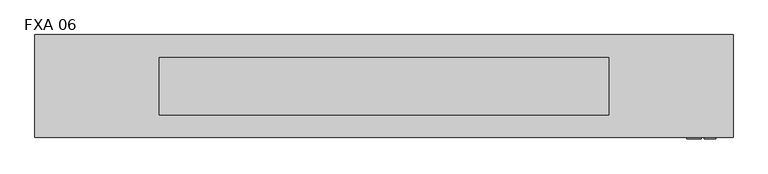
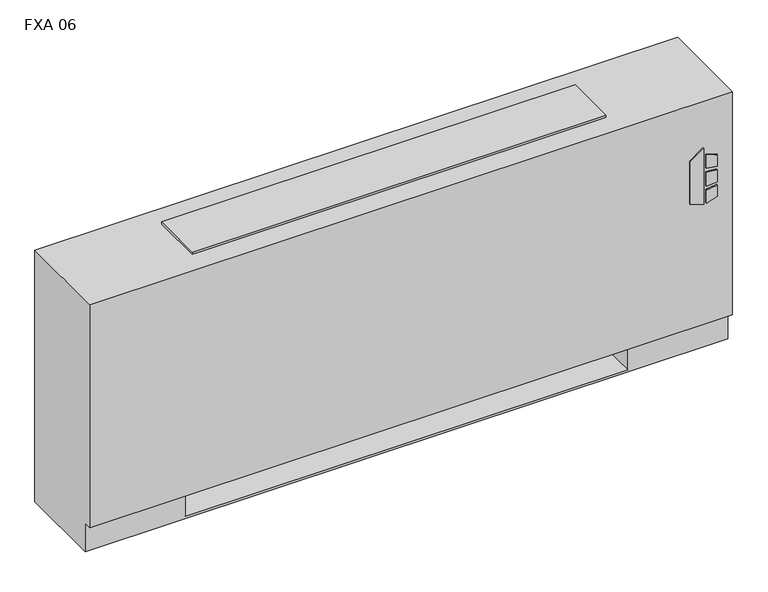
"""IFC4 building model written with IfcOpenShell, lengths in millimetres: proxy geometry, Vertical_Fan_Coil_Unit_-_FXA_-_IEC_-_4-Pipe_TS-FR_LH_2022 : FXA 06."""

from ifc_helpers import new_model, si_unit, point, frame, frame_2d, origin, place, context, project, spatial, polyline, circle_curve, trimmed, segment, composite_curve, outline, extrude, source, transform, mapped, element, save
from ifc_brep_helpers import plane_surface, revolved_surface, advanced_brep


def fxa_06_47459137(model_context):
    return source(origin(), model_context, "Body", "SolidModel", [
        extrude(outline(polyline([(391.6086829, 823.9868862), (381.6606126, 856.1602728), (523.831537, 856.1602728), (500.8095309, 823.9868862), (391.6086829, 823.9868862)])), frame((0.0, 12.7, 0.0), z_axis=(0.0, 1.0, 0.0), x_axis=(0.0, 0.0, 1.0)), (0.0, 0.0, 1.0), 3.175),
        extrude(outline(polyline([(470.6079683, 862.9186058), (467.4055757, 889.0), (496.6344168, 889.0), (504.6988318, 862.9186058), (470.6079683, 862.9186058)])), frame((0.0, 12.7, 0.0), z_axis=(0.0, 1.0, 0.0), x_axis=(0.0, 0.0, 1.0)), (0.0, 0.0, 1.0), 3.175),
        extrude(outline(polyline([(418.7444414, 889.0), (415.0789404, 862.9186058), (381.6606126, 862.9186058), (390.2948498, 889.0), (418.7444414, 889.0)])), frame((0.0, 12.7, 0.0), z_axis=(0.0, 1.0, 0.0), x_axis=(0.0, 0.0, 1.0)), (0.0, 0.0, 1.0), 3.175),
        extrude(outline(polyline([(458.0596028, 889.0), (460.3414292, 862.9186058), (424.4038806, 862.9186058), (427.1451456, 889.0), (458.0596028, 889.0)])), frame((0.0, 12.7, 0.0), z_axis=(0.0, 1.0, 0.0), x_axis=(0.0, 0.0, 1.0)), (0.0, 0.0, 1.0), 3.175),
        extrude(outline(polyline([(806.45, 223.266), (806.45, 81.534), (685.8, 81.534), (685.8, 223.266), (806.45, 223.266)])), frame((0.0, 0.0, 327.025), z_axis=(0.0, 0.0, 1.0), x_axis=(1.0, 0.0, 0.0)), (0.0, 0.0, 1.0), 260.35),
        extrude(outline(composite_curve([segment(trimmed(circle_curve(frame_2d((-444.5, 130.175)), 9.525), [point((-454.025, 130.175))], [point((-434.975, 130.175))], False, "CARTESIAN"), True, "CONTINUOUS"), segment(trimmed(circle_curve(frame_2d((-444.5, 130.175)), 9.525), [point((-434.975, 130.175))], [point((-454.025, 130.175))], False, "CARTESIAN"), True, "CONTINUOUS")], self_intersect=False)), frame((0.0, 0.0, 101.6), z_axis=(0.0, 0.0, 1.0), x_axis=(1.0, 0.0, 0.0)), (0.0, 0.0, 1.0), 25.4),
        extrude(outline(polyline([(-539.75, 63.5), (-539.75, 196.85), (-381.0, 196.85), (-381.0, 63.5), (-539.75, 63.5)])), frame((0.0, 0.0, 127.0), z_axis=(0.0, 0.0, 1.0), x_axis=(1.0, 0.0, 0.0)), (0.0, 0.0, 1.0), 50.8),
        extrude(outline(composite_curve([segment(trimmed(circle_curve(frame_2d((107.95, 457.2)), 7.9375), [point((107.95, 465.1375))], [point((107.95, 449.2625))], False, "CARTESIAN"), True, "CONTINUOUS"), segment(trimmed(circle_curve(frame_2d((107.95, 457.2)), 7.9375), [point((107.95, 449.2625))], [point((107.95, 465.1375))], False, "CARTESIAN"), True, "CONTINUOUS")], self_intersect=False)), frame((-431.8, 0.0, 0.0), z_axis=(1.0, 0.0, 0.0), x_axis=(0.0, 1.0, 0.0)), (0.0, 0.0, 1.0), 50.8),
        extrude(outline(composite_curve([segment(trimmed(circle_curve(frame_2d((155.575, 431.8)), 7.9375), [point((155.575, 439.7375))], [point((155.575, 423.8625))], False, "CARTESIAN"), True, "CONTINUOUS"), segment(trimmed(circle_curve(frame_2d((155.575, 431.8)), 7.9375), [point((155.575, 423.8625))], [point((155.575, 439.7375))], False, "CARTESIAN"), True, "CONTINUOUS")], self_intersect=False)), frame((-431.8, 0.0, 0.0), z_axis=(1.0, 0.0, 0.0), x_axis=(0.0, 1.0, 0.0)), (0.0, 0.0, 1.0), 50.8),
        extrude(outline(composite_curve([segment(trimmed(circle_curve(frame_2d((130.175, 554.99)), 7.9502), [point((130.175, 562.9402))], [point((130.175, 547.0398))], False, "CARTESIAN"), True, "CONTINUOUS"), segment(trimmed(circle_curve(frame_2d((130.175, 554.99)), 7.9502), [point((130.175, 547.0398))], [point((130.175, 562.9402))], False, "CARTESIAN"), True, "CONTINUOUS")], self_intersect=False)), frame((-431.8, 0.0, 0.0), z_axis=(1.0, 0.0, 0.0), x_axis=(0.0, 1.0, 0.0)), (0.0, 0.0, 1.0), 50.8),
        extrude(outline(composite_curve([segment(trimmed(circle_curve(frame_2d((53.975, 416.56)), 7.9502), [point((53.975, 424.5102))], [point((53.975, 408.6098))], False, "CARTESIAN"), True, "CONTINUOUS"), segment(trimmed(circle_curve(frame_2d((53.975, 416.56)), 7.9502), [point((53.975, 408.6098))], [point((53.975, 424.5102))], False, "CARTESIAN"), True, "CONTINUOUS")], self_intersect=False)), frame((-431.8, 0.0, 0.0), z_axis=(1.0, 0.0, 0.0), x_axis=(0.0, 1.0, 0.0)), (0.0, 0.0, 1.0), 50.8),
        advanced_brep(
        [(927.1, 244.475, 641.35), (-622.3, 244.475, 641.35), (-622.3, 15.875, 641.35), (927.1, 15.875, 641.35), (-622.3, 244.475, 0.0), (927.1, 244.475, 0.0), (927.1, 34.925, 0.0), (-622.3, 34.925, 0.0), (685.8, 244.475, 73.025), (914.4, 244.475, 73.025), (914.4, 244.475, 628.65), (685.8, 244.475, 628.65), (685.8, 244.475, 414.8650565), (714.375, 244.475, 414.8650565), (714.375, 244.475, 385.2349435), (685.8, 244.475, 385.2349435), (685.8, 244.475, 287.3375), (714.375, 244.475, 287.3375), (714.375, 244.475, 258.7625), (685.8, 244.475, 258.7625), (685.8, 244.475, 141.2875), (714.375, 244.475, 141.2875), (714.375, 244.475, 112.7125), (685.8, 244.475, 112.7125), (-381.0, 244.475, 628.65), (-609.6, 244.475, 628.65), (-609.6, 244.475, 73.025), (-381.0, 244.475, 73.025), (-381.0, 244.475, 112.7125), (-409.575, 244.475, 112.7125), (-409.575, 244.475, 141.2875), (-381.0, 244.475, 141.2875), (-381.0, 244.475, 258.7625), (-409.575, 244.475, 258.7625), (-409.575, 244.475, 287.3375), (-381.0, 244.475, 287.3375), (-381.0, 244.475, 385.2349435), (-409.575, 244.475, 385.2349435), (-409.575, 244.475, 414.8650565), (-381.0, 244.475, 414.8650565), (704.0626, 244.475, 127.0), (692.9374, 244.475, 127.0), (704.0626, 244.475, 400.05), (692.9374, 244.475, 400.05), (704.0626, 244.475, 273.05), (692.9374, 244.475, 273.05), (-388.1374, 244.475, 127.0), (-399.2626, 244.475, 127.0), (-388.1374, 244.475, 273.05), (-399.2626, 244.475, 273.05), (-388.1374, 244.475, 400.05), (-399.2626, 244.475, 400.05), (-622.3, 34.925, 73.025), (-622.3, 15.875, 73.025), (927.1, 15.875, 73.025), (927.1, 34.925, 73.025), (-381.0, 34.925, 73.025), (-381.0, 219.075, 73.025), (685.8, 219.075, 73.025), (685.8, 34.925, 73.025), (685.8, 34.925, 6.35), (-381.0, 34.925, 6.35), (685.8, 41.275, 628.65), (914.4, 41.275, 628.65), (914.4, 41.275, 73.025), (685.8, 41.275, 73.025), (-381.0, 41.275, 628.65), (-381.0, 41.275, 73.025), (-609.6, 41.275, 73.025), (-609.6, 41.275, 628.65), (685.8, 219.075, 73.025), (685.8, 238.125, 112.7125), (685.8, 238.125, 141.2875), (685.8, 238.125, 258.7625), (685.8, 238.125, 287.3375), (685.8, 238.125, 385.2349435), (685.8, 238.125, 414.8650565), (-381.0, 219.075, 73.025), (-381.0, 238.125, 414.8650565), (-381.0, 238.125, 385.2349435), (-381.0, 238.125, 287.3375), (-381.0, 238.125, 258.7625), (-381.0, 238.125, 141.2875), (-381.0, 238.125, 112.7125), (-381.0, 219.075, 6.35), (685.8, 219.075, 6.35), (714.375, 238.125, 112.7125), (714.375, 238.125, 141.2875), (692.9374, 238.125, 127.0), (704.0626, 238.125, 127.0), (714.375, 238.125, 258.7625), (714.375, 238.125, 287.3375), (692.9374, 238.125, 273.05), (704.0626, 238.125, 273.05), (714.375, 238.125, 385.2349435), (714.375, 238.125, 414.8650565), (692.9374, 238.125, 400.05), (704.0626, 238.125, 400.05), (-409.575, 238.125, 141.2875), (-409.575, 238.125, 112.7125), (-399.2626, 238.125, 127.0), (-388.1374, 238.125, 127.0), (-409.575, 238.125, 287.3375), (-409.575, 238.125, 258.7625), (-399.2626, 238.125, 273.05), (-388.1374, 238.125, 273.05), (-409.575, 238.125, 414.8650565), (-409.575, 238.125, 385.2349435), (-399.2626, 238.125, 400.05), (-388.1374, 238.125, 400.05)],
        [
            (0, 1),
            (1, 2),
            (2, 3),
            (3, 0),
            (4, 5),
            (5, 6),
            (6, 7),
            (7, 4),
            (0, 5),
            (4, 1),
            (8, 9),
            (9, 10),
            (10, 11),
            (11, 12),
            (12, 13),
            (13, 14),
            (14, 15),
            (15, 16),
            (16, 17),
            (17, 18),
            (18, 19),
            (19, 20),
            (20, 21),
            (21, 22),
            (22, 23),
            (23, 8),
            (24, 25),
            (25, 26),
            (26, 27),
            (27, 28),
            (28, 29),
            (29, 30),
            (30, 31),
            (31, 32),
            (32, 33),
            (33, 34),
            (34, 35),
            (35, 36),
            (36, 37),
            (37, 38),
            (38, 39),
            (39, 24),
            (40, 41, circle_curve(frame((698.5, 244.475, 127.0), z_axis=(0.0, -1.0, 0.0), x_axis=(-1.0, 0.0, 0.0)), 5.5626)),
            (41, 40, circle_curve(frame((698.5, 244.475, 127.0), z_axis=(0.0, -1.0, 0.0), x_axis=(-1.0, 0.0, 0.0)), 5.5626)),
            (42, 43, circle_curve(frame((698.5, 244.475, 400.05), z_axis=(0.0, -1.0, 0.0), x_axis=(-1.0, 0.0, 0.0)), 5.5626)),
            (43, 42, circle_curve(frame((698.5, 244.475, 400.05), z_axis=(0.0, -1.0, 0.0), x_axis=(-1.0, 0.0, 0.0)), 5.5626)),
            (44, 45, circle_curve(frame((698.5, 244.475, 273.05), z_axis=(0.0, -1.0, 0.0), x_axis=(-1.0, 0.0, 0.0)), 5.5626)),
            (45, 44, circle_curve(frame((698.5, 244.475, 273.05), z_axis=(0.0, -1.0, 0.0), x_axis=(-1.0, 0.0, 0.0)), 5.5626)),
            (46, 47, circle_curve(frame((-393.7, 244.475, 127.0), z_axis=(0.0, -1.0, 0.0), x_axis=(-1.0, 0.0, 0.0)), 5.5626)),
            (47, 46, circle_curve(frame((-393.7, 244.475, 127.0), z_axis=(0.0, -1.0, 0.0), x_axis=(-1.0, 0.0, 0.0)), 5.5626)),
            (48, 49, circle_curve(frame((-393.7, 244.475, 273.05), z_axis=(0.0, -1.0, 0.0), x_axis=(-1.0, 0.0, 0.0)), 5.5626)),
            (49, 48, circle_curve(frame((-393.7, 244.475, 273.05), z_axis=(0.0, -1.0, 0.0), x_axis=(-1.0, 0.0, 0.0)), 5.5626)),
            (50, 51, circle_curve(frame((-393.7, 244.475, 400.05), z_axis=(0.0, -1.0, 0.0), x_axis=(-1.0, 0.0, 0.0)), 5.5626)),
            (51, 50, circle_curve(frame((-393.7, 244.475, 400.05), z_axis=(0.0, -1.0, 0.0), x_axis=(-1.0, 0.0, 0.0)), 5.5626)),
            (7, 52),
            (52, 53),
            (53, 2),
            (53, 54),
            (54, 3),
            (54, 55),
            (55, 6),
            (52, 56),
            (56, 57),
            (57, 58),
            (58, 59),
            (59, 55),
            (59, 60),
            (60, 61),
            (61, 56),
            (62, 63),
            (63, 64),
            (64, 65),
            (65, 62),
            (66, 67),
            (67, 68),
            (68, 69),
            (69, 66),
            (65, 70),
            (70, 8),
            (23, 71),
            (71, 72),
            (72, 20),
            (19, 73),
            (73, 74),
            (74, 16),
            (15, 75),
            (75, 76),
            (76, 12),
            (11, 62),
            (64, 9),
            (63, 10),
            (69, 25),
            (24, 66),
            (68, 26),
            (67, 77),
            (77, 27),
            (39, 78),
            (78, 79),
            (79, 36),
            (35, 80),
            (80, 81),
            (81, 32),
            (31, 82),
            (82, 83),
            (83, 28),
            (57, 84),
            (84, 85),
            (85, 58),
            (85, 60),
            (84, 61),
            (71, 86),
            (86, 87),
            (87, 72),
            (88, 89, circle_curve(frame((698.5, 238.125, 127.0), z_axis=(0.0, 1.0, 0.0), x_axis=(-1.0, 0.0, 0.0)), 5.5626)),
            (89, 88, circle_curve(frame((698.5, 238.125, 127.0), z_axis=(0.0, 1.0, 0.0), x_axis=(-1.0, 0.0, 0.0)), 5.5626)),
            (73, 90),
            (90, 91),
            (91, 74),
            (92, 93, circle_curve(frame((698.5, 238.125, 273.05), z_axis=(0.0, 1.0, 0.0), x_axis=(-1.0, 0.0, 0.0)), 5.5626)),
            (93, 92, circle_curve(frame((698.5, 238.125, 273.05), z_axis=(0.0, 1.0, 0.0), x_axis=(-1.0, 0.0, 0.0)), 5.5626)),
            (75, 94),
            (94, 95),
            (95, 76),
            (96, 97, circle_curve(frame((698.5, 238.125, 400.05), z_axis=(0.0, 1.0, 0.0), x_axis=(-1.0, 0.0, 0.0)), 5.5626)),
            (97, 96, circle_curve(frame((698.5, 238.125, 400.05), z_axis=(0.0, 1.0, 0.0), x_axis=(-1.0, 0.0, 0.0)), 5.5626)),
            (98, 99),
            (99, 83),
            (82, 98),
            (100, 101, circle_curve(frame((-393.7, 238.125, 127.0), z_axis=(0.0, 1.0, 0.0), x_axis=(-1.0, 0.0, 0.0)), 5.5626)),
            (101, 100, circle_curve(frame((-393.7, 238.125, 127.0), z_axis=(0.0, 1.0, 0.0), x_axis=(-1.0, 0.0, 0.0)), 5.5626)),
            (102, 103),
            (103, 81),
            (80, 102),
            (104, 105, circle_curve(frame((-393.7, 238.125, 273.05), z_axis=(0.0, 1.0, 0.0), x_axis=(-1.0, 0.0, 0.0)), 5.5626)),
            (105, 104, circle_curve(frame((-393.7, 238.125, 273.05), z_axis=(0.0, 1.0, 0.0), x_axis=(-1.0, 0.0, 0.0)), 5.5626)),
            (106, 107),
            (107, 79),
            (78, 106),
            (108, 109, circle_curve(frame((-393.7, 238.125, 400.05), z_axis=(0.0, 1.0, 0.0), x_axis=(-1.0, 0.0, 0.0)), 5.5626)),
            (109, 108, circle_curve(frame((-393.7, 238.125, 400.05), z_axis=(0.0, 1.0, 0.0), x_axis=(-1.0, 0.0, 0.0)), 5.5626)),
            (87, 21),
            (86, 22),
            (91, 17),
            (90, 18),
            (95, 13),
            (94, 14),
            (30, 98),
            (99, 29),
            (34, 102),
            (103, 33),
            (38, 106),
            (107, 37),
            (88, 41),
            (40, 89),
            (96, 43),
            (42, 97),
            (92, 45),
            (44, 93),
            (100, 47),
            (46, 101),
            (104, 49),
            (48, 105),
            (108, 51),
            (50, 109),
        ],
        [
            plane_surface(frame((-622.3, 244.475, 641.35), z_axis=(0.0, 0.0, 1.0), x_axis=(-1.0, 0.0, 0.0))),
            plane_surface(frame((-622.3, 244.475, 0.0), z_axis=(0.0, 0.0, -1.0), x_axis=(1.0, 0.0, 0.0))),
            plane_surface(frame((927.1, 244.475, 641.35), z_axis=(0.0, 1.0, 0.0), x_axis=(0.0, 0.0, -1.0))),
            plane_surface(frame((-622.3, 244.475, 641.35), z_axis=(-1.0, 0.0, 0.0), x_axis=(0.0, 0.0, -1.0))),
            plane_surface(frame((-622.3, 15.875, 641.35), z_axis=(0.0, -1.0, 0.0), x_axis=(0.0, 0.0, -1.0))),
            plane_surface(frame((927.1, 15.875, 641.35), z_axis=(1.0, 0.0, 0.0), x_axis=(0.0, 0.0, -1.0))),
            plane_surface(frame((-622.3, 15.875, 73.025), z_axis=(0.0, 0.0, -1.0), x_axis=(1.0, 0.0, 0.0))),
            plane_surface(frame((-622.3, 34.925, 73.025), z_axis=(0.0, -1.0, 0.0), x_axis=(1.0, 0.0, 0.0))),
            plane_surface(frame((685.8, 41.275, 628.65), z_axis=(0.0, 1.0, 0.0), x_axis=(0.0, 0.0, -1.0))),
            plane_surface(frame((685.8, 41.275, 628.65), z_axis=(1.0, 0.0, 0.0), x_axis=(0.0, 1.0, 0.0))),
            plane_surface(frame((685.8, 41.275, 73.025), z_axis=(0.0, 0.0, 1.0), x_axis=(0.0, 1.0, 0.0))),
            plane_surface(frame((914.4, 41.275, 73.025), z_axis=(-1.0, 0.0, 0.0), x_axis=(0.0, 1.0, 0.0))),
            plane_surface(frame((914.4, 41.275, 628.65), z_axis=(0.0, 0.0, -1.0), x_axis=(0.0, 1.0, 0.0))),
            plane_surface(frame((-381.0, 41.275, 628.65), z_axis=(0.0, 0.0, -1.0), x_axis=(0.0, 1.0, 0.0))),
            plane_surface(frame((-609.6, 41.275, 628.65), z_axis=(1.0, 0.0, 0.0), x_axis=(0.0, 1.0, 0.0))),
            plane_surface(frame((-609.6, 41.275, 73.025), z_axis=(0.0, 0.0, 1.0), x_axis=(0.0, 1.0, 0.0))),
            plane_surface(frame((-381.0, 41.275, 73.025), z_axis=(-1.0, 0.0, 0.0), x_axis=(0.0, 1.0, 0.0))),
            plane_surface(frame((685.8, 219.075, 73.025), z_axis=(0.0, -1.0, 0.0), x_axis=(0.0, 0.0, -1.0))),
            plane_surface(frame((685.8, 219.075, 73.025), z_axis=(-1.0, 0.0, 0.0), x_axis=(0.0, -1.0, 0.0))),
            plane_surface(frame((685.8, 219.075, 6.35), z_axis=(0.0, 0.0, 1.0), x_axis=(0.0, -1.0, 0.0))),
            plane_surface(frame((-381.0, 219.075, 6.35), z_axis=(1.0, 0.0, 0.0), x_axis=(0.0, -1.0, 0.0))),
            plane_surface(frame((714.375, 238.125, 141.2875), z_axis=(0.0, -1.0, 0.0), x_axis=(-1.0, 0.0, 0.0))),
            plane_surface(frame((685.8, 244.475, 141.2875), z_axis=(0.0, 0.0, 1.0), x_axis=(0.0, -1.0, 0.0))),
            plane_surface(frame((714.375, 244.475, 141.2875), z_axis=(1.0, 0.0, 0.0), x_axis=(0.0, -1.0, 0.0))),
            plane_surface(frame((714.375, 244.475, 112.7125), z_axis=(0.0, 0.0, -1.0), x_axis=(0.0, -1.0, 0.0))),
            plane_surface(frame((685.8, 244.475, 287.3375), z_axis=(0.0, 0.0, 1.0), x_axis=(0.0, -1.0, 0.0))),
            plane_surface(frame((714.375, 244.475, 287.3375), z_axis=(1.0, 0.0, 0.0), x_axis=(0.0, -1.0, 0.0))),
            plane_surface(frame((714.375, 244.475, 258.7625), z_axis=(0.0, 0.0, -1.0), x_axis=(0.0, -1.0, 0.0))),
            plane_surface(frame((685.8, 244.475, 414.8650565), z_axis=(0.0, 0.0, 1.0), x_axis=(0.0, -1.0, 0.0))),
            plane_surface(frame((714.375, 244.475, 414.8650565), z_axis=(1.0, 0.0, 0.0), x_axis=(0.0, -1.0, 0.0))),
            plane_surface(frame((714.375, 244.475, 385.2349435), z_axis=(0.0, 0.0, -1.0), x_axis=(0.0, -1.0, 0.0))),
            plane_surface(frame((-409.575, 244.475, 141.2875), z_axis=(0.0, 0.0, 1.0), x_axis=(0.0, -1.0, 0.0))),
            plane_surface(frame((-381.0, 244.475, 112.7125), z_axis=(0.0, 0.0, -1.0), x_axis=(0.0, -1.0, 0.0))),
            plane_surface(frame((-409.575, 244.475, 112.7125), z_axis=(-1.0, 0.0, 0.0), x_axis=(0.0, -1.0, 0.0))),
            plane_surface(frame((-409.575, 244.475, 287.3375), z_axis=(0.0, 0.0, 1.0), x_axis=(0.0, -1.0, 0.0))),
            plane_surface(frame((-381.0, 244.475, 258.7625), z_axis=(0.0, 0.0, -1.0), x_axis=(0.0, -1.0, 0.0))),
            plane_surface(frame((-409.575, 244.475, 258.7625), z_axis=(-1.0, 0.0, 0.0), x_axis=(0.0, -1.0, 0.0))),
            plane_surface(frame((-409.575, 244.475, 414.8650565), z_axis=(0.0, 0.0, 1.0), x_axis=(0.0, -1.0, 0.0))),
            plane_surface(frame((-381.0, 244.475, 385.2349435), z_axis=(0.0, 0.0, -1.0), x_axis=(0.0, -1.0, 0.0))),
            plane_surface(frame((-409.575, 244.475, 385.2349435), z_axis=(-1.0, 0.0, 0.0), x_axis=(0.0, -1.0, 0.0))),
            revolved_surface(polyline([(692.9374, 238.125, 127.0), (692.9374, 244.475, 127.0)]), (698.5, 244.475, 127.0), (0.0, -1.0, 0.0)),
            revolved_surface(polyline([(692.9374, 238.125, 400.05), (692.9374, 244.475, 400.05)]), (698.5, 244.475, 400.05), (0.0, -1.0, 0.0)),
            revolved_surface(polyline([(692.9374, 238.125, 273.05), (692.9374, 244.475, 273.05)]), (698.5, 244.475, 273.05), (0.0, -1.0, 0.0)),
            revolved_surface(polyline([(-399.26259999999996, 238.125, 127.0), (-399.26259999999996, 244.475, 127.0)]), (-393.7, 244.475, 127.0), (0.0, -1.0, 0.0)),
            revolved_surface(polyline([(-399.26259999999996, 238.125, 273.05), (-399.26259999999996, 244.475, 273.05)]), (-393.7, 244.475, 273.05), (0.0, -1.0, 0.0)),
            revolved_surface(polyline([(-399.26259999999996, 238.125, 400.05), (-399.26259999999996, 244.475, 400.05)]), (-393.7, 244.475, 400.05), (0.0, -1.0, 0.0)),
        ],
        [
            (0, [[1, 2, 3, 4]]),
            (1, [[5, 6, 7, 8]]),
            (2, [[-1, 9, -5, 10], [11, 12, 13, 14, 15, 16, 17, 18, 19, 20, 21, 22, 23, 24, 25, 26], [27, 28, 29, 30, 31, 32, 33, 34, 35, 36, 37, 38, 39, 40, 41, 42], [43, 44], [45, 46], [47, 48], [49, 50], [51, 52], [53, 54]]),
            (3, [[-2, -10, -8, 55, 56, 57]]),
            (4, [[-3, -57, 58, 59]]),
            (5, [[-4, -59, 60, 61, -6, -9]]),
            (6, [[-56, 62, 63, 64, 65, 66, -60, -58]]),
            (7, [[-7, -61, -66, 67, 68, 69, -62, -55]]),
            (8, [[70, 71, 72, 73]]),
            (8, [[74, 75, 76, 77]]),
            (9, [[-73, 78, 79, -26, 80, 81, 82, -22, 83, 84, 85, -18, 86, 87, 88, -14, 89]]),
            (10, [[-72, 90, -11, -79, -78]]),
            (11, [[-71, 91, -12, -90]]),
            (12, [[-70, -89, -13, -91]]),
            (13, [[-77, 92, -27, 93]]),
            (14, [[-76, 94, -28, -92]]),
            (15, [[-75, 95, 96, -29, -94]]),
            (16, [[-74, -93, -42, 97, 98, 99, -38, 100, 101, 102, -34, 103, 104, 105, -30, -96, -95]]),
            (17, [[-64, 106, 107, 108]]),
            (18, [[-108, 109, -67, -65]]),
            (19, [[-107, 110, -68, -109]]),
            (20, [[-106, -63, -69, -110]]),
            (21, [[111, 112, 113, -81], [114, 115]]),
            (21, [[116, 117, 118, -84], [119, 120]]),
            (21, [[121, 122, 123, -87], [124, 125]]),
            (21, [[126, 127, -104, 128], [129, 130]]),
            (21, [[131, 132, -101, 133], [134, 135]]),
            (21, [[136, 137, -98, 138], [139, 140]]),
            (22, [[-113, 141, -23, -82]]),
            (23, [[-112, 142, -24, -141]]),
            (24, [[-111, -80, -25, -142]]),
            (25, [[-118, 143, -19, -85]]),
            (26, [[-117, 144, -20, -143]]),
            (27, [[-116, -83, -21, -144]]),
            (28, [[-123, 145, -15, -88]]),
            (29, [[-122, 146, -16, -145]]),
            (30, [[-121, -86, -17, -146]]),
            (31, [[-128, -103, -33, 147]]),
            (32, [[-127, 148, -31, -105]]),
            (33, [[-126, -147, -32, -148]]),
            (34, [[-133, -100, -37, 149]]),
            (35, [[-132, 150, -35, -102]]),
            (36, [[-131, -149, -36, -150]]),
            (37, [[-138, -97, -41, 151]]),
            (38, [[-137, 152, -39, -99]]),
            (39, [[-136, -151, -40, -152]]),
            (40, [[153, -43, 154, -114]]),
            (40, [[-153, -115, -154, -44]]),
            (41, [[155, -45, 156, -124]]),
            (41, [[-155, -125, -156, -46]]),
            (42, [[157, -47, 158, -119]]),
            (42, [[-157, -120, -158, -48]]),
            (43, [[159, -49, 160, -129]]),
            (43, [[-159, -130, -160, -50]]),
            (44, [[161, -51, 162, -134]]),
            (44, [[-161, -135, -162, -52]]),
            (45, [[163, -53, 164, -139]]),
            (45, [[-163, -140, -164, -54]]),
        ],
    ),
        extrude(outline(polyline([(650.875, 193.675), (650.875, 66.675), (-346.075, 66.675), (-346.075, 193.675), (650.875, 193.675)])), frame((0.0, 0.0, 641.35), z_axis=(0.0, 0.0, 1.0), x_axis=(1.0, 0.0, 0.0)), (0.0, 0.0, 1.0), 6.35),
    ])


if __name__ == "__main__":
    model = new_model("IFC4")
    model_context = context("Model", 3, world=origin())
    ifc_project = project(units=[si_unit("LENGTHUNIT", "METRE", prefix="MILLI")], contexts=[model_context])
    site = spatial("IfcSite", under=ifc_project)
    building = spatial("IfcBuilding", under=site)
    placement = place(None, origin())
    fxa_06_shape = fxa_06_47459137(model_context)
    element("IfcBuildingElementProxy", 1, Name="Vertical_Fan_Coil_Unit_-_FXA_-_IEC_-_4-Pipe_TS-FR_LH_2022 : FXA 06", ObjectType="Vertical_Fan_Coil_Unit_-_FXA_-_IEC_-_4-Pipe_TS-FR_LH_2022 : FXA 06", at=placement, inside=building, context=model_context, shape_type="MappedRepresentation", body=[
        mapped(fxa_06_shape, transform((0.0, 0.0, 0.0), x_axis=(1.0, 0.0, 0.0), y_axis=(0.0, 1.0, 0.0), z_axis=(0.0, 0.0, 1.0))),
    ])
    save(model, "model.ifc")
